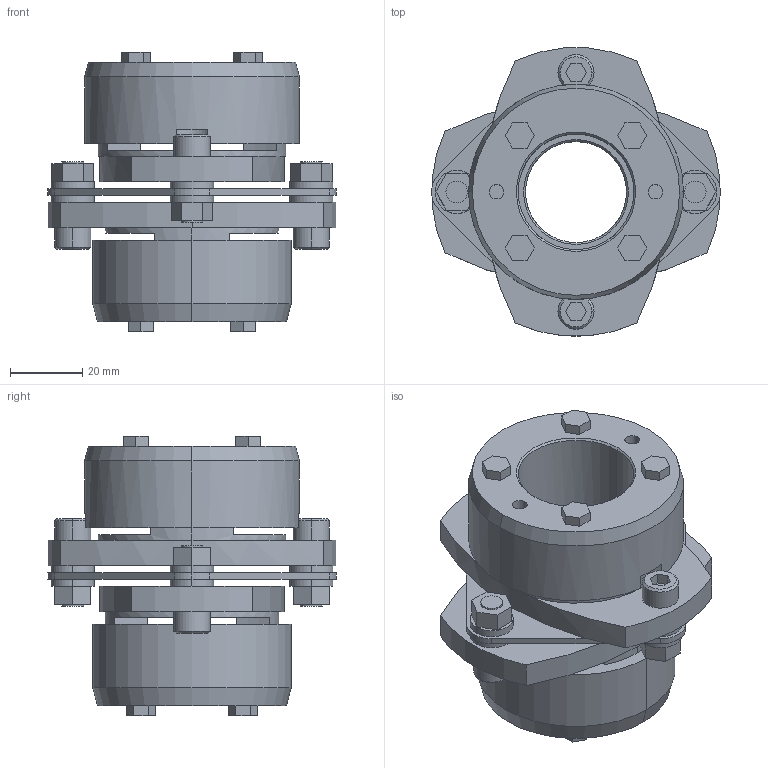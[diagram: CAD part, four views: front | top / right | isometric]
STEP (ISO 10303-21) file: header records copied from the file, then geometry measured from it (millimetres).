
FILE_DESCRIPTION((''),'2;1');
FILE_NAME('LCS-80T7-28×32.stp','2011-09-12T16:46:56',(''),(''),'AutoCAD STEP 2000i','AutoCAD 2000i',', , ');
FILE_SCHEMA(('CONFIG_CONTROL_DESIGN'));
Length unit declared in the file: millimetre
Products named in the file (12): LCS-80T7-28×32; 忣兜1; LC80T7-T032; LC80T7-T030; LC80T7-T028-1; LC80T7-T028; LC80T7-T024; LC80T7-T022; LC80T7-T019; LC80T7-T017-1; LC80T7-T017; LCS80-ITA
Assembly tree (11 placements, depth 2):
  LCS-80T7-28×32
    忣兜1
    LC80T7-T032
    LC80T7-T030
    LC80T7-T028-1
    LC80T7-T028
    LC80T7-T024
    LC80T7-T022
    LC80T7-T019
    LC80T7-T017-1
    LC80T7-T017
    LCS80-ITA
Bounding box: 80 x 79.95 x 77.35 mm (x, y, z)
Volume: 137196.1 mm3; surface area: 42394.6 mm2
Topology: 1 solids, 1 shells, 253 faces, 624 edges, 408 vertices
Faces by surface type: plane 151, cylinder 82, cone 20
Entity records: 7783 total; most frequent: DIRECTION 1366, CARTESIAN_POINT 1297, ORIENTED_EDGE 1248, EDGE_CURVE 624, AXIS2_PLACEMENT_3D 477, VECTOR 412, LINE 412, VERTEX_POINT 408
